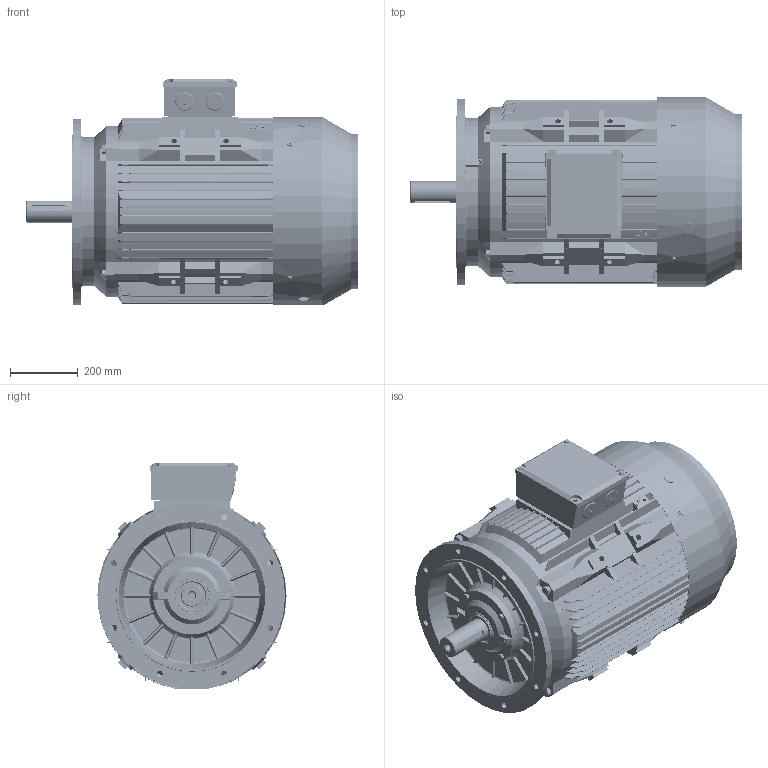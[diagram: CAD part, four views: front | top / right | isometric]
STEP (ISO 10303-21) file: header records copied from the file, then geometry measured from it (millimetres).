
FILE_DESCRIPTION (( 'STEP AP214' ), '1' );
FILE_NAME ('BCT4750.28A205.11.step', '2020-04-23T13:54:26', ( '' ), ( '' ), 'SwSTEP 2.0', 'SolidWorks 2019', '' );
FILE_SCHEMA (( 'AUTOMOTIVE_DESIGN' ));
Length unit declared in the file: millimetre
Products named in the file (1): BCT4750.28A205.11
Bounding box: 981.2 x 559 x 666.18 mm (x, y, z)
Volume: 34217853.7 mm3; surface area: 6656405.5 mm2
Topology: 41 solids, 42 shells, 9899 faces, 29016 edges, 19137 vertices
Faces by surface type: plane 4910, cylinder 4201, cone 318, torus 231, sphere 124, bspline 115
Entity records: 362993 total; most frequent: CARTESIAN_POINT 92596, ORIENTED_EDGE 57624, DIRECTION 55521, EDGE_CURVE 28812, VERTEX_POINT 19075, AXIS2_PLACEMENT_3D 18957, LINE 17607, VECTOR 17607
